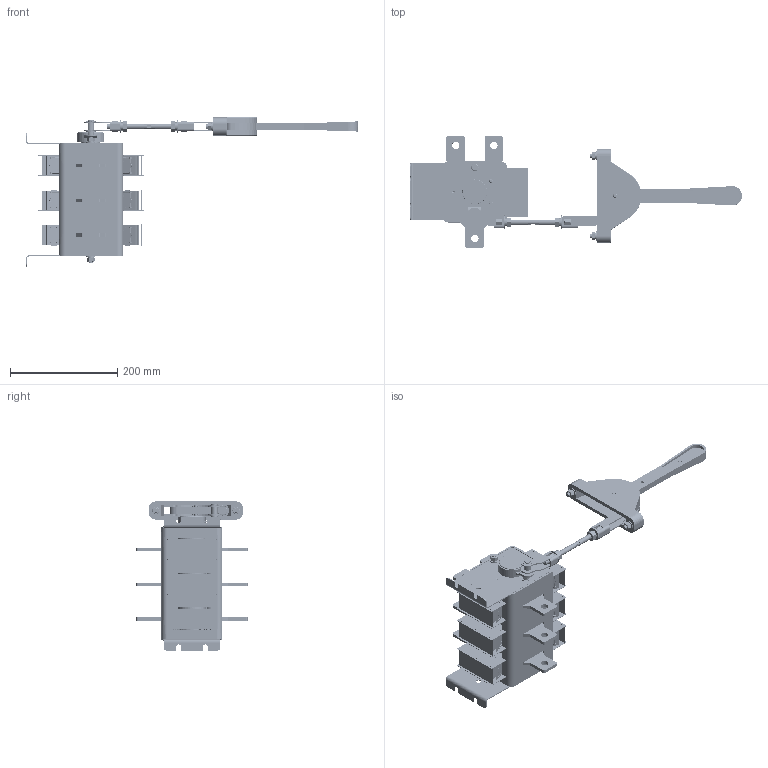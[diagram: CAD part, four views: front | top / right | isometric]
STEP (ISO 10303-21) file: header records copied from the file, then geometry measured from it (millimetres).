
FILE_DESCRIPTION (( 'STEP AP214' ), '1' );
FILE_NAME ('ﾂﾐ32-39 ﾃﾆﾈﾊ.642523.012-07 (ﾀ71240-630ﾀ).STEP', '2023-04-19T05:26:07', ( '' ), ( '' ), 'SwSTEP 2.0', 'SolidWorks 2018', '' );
FILE_SCHEMA (( 'AUTOMOTIVE_DESIGN' ));
Length unit declared in the file: millimetre
Products named in the file (54): Çàãëóøêà_ÃÆÈÊ.735211.004_â¥å­®«®£¨ç¥áª ï; ﾂ鏆鮏 ﾃﾆﾈﾊ.745485.018; 殃钺郷闷仁.301535.005; 想囫蜩磬_闷仁.745355.034; Ðóêîÿòêà_019; 婰膲僗闉010; Êîðïóñ ñðåäíèé ÃÆÈÊ.735384.064; Ñêîáà_ÃÆÈÊ.745252.012_á¡®àª  ¯®¤ ®á®¡ãî £ ©ªã; ﾘ琺矜 8.01.019; 殃钺郷闷仁.301535.006蚜; Êîíòàêò ïîäâèæíûé ÃÆÈÊ.685179.160; Ðóêîÿòêà ÃÆÈÊ.303658.021; Áîêîâèíà ïðàâàÿ ÃÆÈÊ.735224.036; Ãàéêà 2Ì10-6Í.5.016; Èñêðîãàñèòåëü_ÃÆÈÊ.741271.008_-01 (®â¢¥àáâ¨ï); Ãàéêà 2Ì8-6Í.5.016; 想囫蜩磬_闷仁.745355.016; 务黖闷仁.715411.024_倫39; Êîíòàêò ïîäâèæíûé_ÃÆÈÊ.745355. 033; 暑痫篑_闷仁.735384.066_儐垔.735384.066; 想囫蜩磬_闷仁.745355.030; Ñêîáà010; 暑痫篑 镳噔 闷仁.735384.063; Ãàéêà Ì10-6Í.016; 挓鎀霠罻_630餛1; Øïèëüêà Ì8 ÃÆÈÊ.758292.006; Îáîëî÷êà2_630À_2 ­ ¯à ¢«¥­¨ï; Ðóêîÿòêà ÃÆÈÊ.303658.017_2 ­ ¯à ¢«¥­¨ï; ﾂ琿 ﾃﾆﾈﾊ.715274.008; ﾘ琺矜 8 65ﾃ 016; îñü023; Ñêîáà_ÃÆÈÊ.745252.013_á¡®àª  á ®á®¡®© £ ©ª®©; 瀇僔蠂縺035; ﾎ_ﾃﾆﾈﾊ.715411.029_-01 (癸ｮ爼); Øàéáà ñïåöèàëüíàÿ; 仫桦郷闷仁.758292.007_倫32-39; 澡犟囹铕_闷仁.745484.007; Ïîâîäîê_ÃÆÈÊ.741321.007_2 ­ ¯à ¢«¥­¨ï; ﾂﾐ32-39 ﾃﾆﾈﾊ.642523.012-07 (ﾀ71240-630ﾀ); 务黖闷仁.715411.020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
Assembly tree (105 placements, depth 5):
  ﾂﾐ32-39 ﾃﾆﾈﾊ.642523.012-07 (ﾀ71240-630ﾀ)
    Êîðïóñ ëåâûé ÃÆÈÊ.735384.065
    ﾂ鏆鮏 ﾃﾆﾈﾊ.745485.019  x3
    Áîêîâèíà ïðàâàÿ ÃÆÈÊ.735224.036_-01
    Êîíòàêò ïîäâèæíûé ÃÆÈÊ.685179.160  x3
      想囫蜩磬_闷仁.745355.016
      务黖闷仁.715411.020
      Êîíòàêò ïîäâèæíûé_ÃÆÈÊ.745355. 033
      澡犟囹铕_闷仁.745484.007
      ﾏ跖浯_ﾃﾆﾈﾊ.753553.012_-01 (癸ｮ爼)
    ﾂ琿 ﾃﾆﾈﾊ.715274.008
    ﾂ鏆鮏 ﾃﾆﾈﾊ.745485.018  x6
    Êîðïóñ ñðåäíèé ÃÆÈÊ.735384.064  x2
    暑痫篑 镳噔 闷仁.735384.063
    Áîêîâèíà ïðàâàÿ ÃÆÈÊ.735224.036
    Êàìåðà äóãîãàñèòåëüíàÿ ÃÆÈÊ.686431.031  x6
      羊屙赅_闷仁.741226.008
      想囫蜩磬_闷仁.745355.034
      Èñêðîãàñèòåëü ÃÆÈÊ686433.013 ÑÁ
        Èñêðîãàñèòåëü_ÃÆÈÊ.741271.008_-01 (®â¢¥àáâ¨ï)
        殃钺郷闷仁.746743.012
      锐牮钽囫栩咫黖闷仁.741271.008
    Øïèëüêà Ì8 ÃÆÈÊ.758292.006  x2
    Ãàéêà 2Ì8-6Í.5.016  x4
    ﾘ琺矜 8 65ﾃ 016  x4
    ﾘ琺矜 8.01.019  x4
    Ðóêîÿòêà ÃÆÈÊ.303658.021
      暑痫篑_闷仁.735384.066_儐垔.735384.066
      Ðóêîÿòêà_019
        挓鎀霠罻_630餛1
        瀇僔蠂縺035
      婰膲僗闉010
      Ñêîáà010
      ﾏ跖浯_ﾃﾆﾈﾊ.753553.019_ｯ璢ｦｨｭ
      îñü023
      殃钺郷闷仁.301535.006蚜
        Ñêîáà_ÃÆÈÊ.745252.013_á¡®àª  á ®á®¡®© £ ©ª®©
        Ãàéêà Ì10-6Í.016
      仫桦郷闷仁.758292.007_倫32-39
      殃钺郷闷仁.301535.005
        Ñêîáà_ÃÆÈÊ.745252.012_á¡®àª  ¯®¤ ®á®¡ãî £ ©ªã
        Ãàéêà Ì10-6Í.016
      务黖闷仁.715411.024_倫39
      Ãàéêà 2Ì10-6Í.5.016  x2
      Ðóêîÿòêà ÃÆÈÊ.303658.017_2 ­ ¯à ¢«¥­¨ï
        Ïîâîäîê_ÃÆÈÊ.304594.013ÑÁ_2 ­ ¯à ¢«¥­¨ï
          Ïîâîäîê_ÃÆÈÊ.741321.007_2 ­ ¯à ¢«¥­¨ï
          想囫蜩磬_闷仁.745355.030
          ﾎ_ﾃﾆﾈﾊ.715411.029_-01 (癸ｮ爼)
        Îáîëî÷êà2_630À_2 ­ ¯à ¢«¥­¨ï
      ﾘ琺矜 ⅰⅱ浯 ﾃﾆﾈﾊ.758491.067  x2
      Çàãëóøêà_ÃÆÈÊ.735211.004_â¥å­®«®£¨ç¥áª ï
      Áîëò Ì8õ25.58.019  x2
      ﾘ琺矜 8.01.019  x2
      ﾘ琺矜 8 65ﾃ 016  x2
      Ãàéêà 2Ì8-6Í.5.016  x2
      ﾘ琺矜 10 65ﾃ 016  x2
      Øàéáà ñïåöèàëüíàÿ  x2
Bounding box: 620.28 x 207.75 x 278.8 mm (x, y, z)
Volume: 1886452.9 mm3; surface area: 1103229.8 mm2
Topology: 199 solids, 199 shells, 7483 faces, 19628 edges, 12690 vertices
Faces by surface type: plane 4929, cylinder 1921, torus 398, cone 146, bspline 81, sphere 8
Entity records: 75605 total; most frequent: CARTESIAN_POINT 16415, DIRECTION 10831, ORIENTED_EDGE 10242, EDGE_CURVE 5121, AXIS2_PLACEMENT_3D 3748, LINE 3335, VECTOR 3335, VERTEX_POINT 3314
